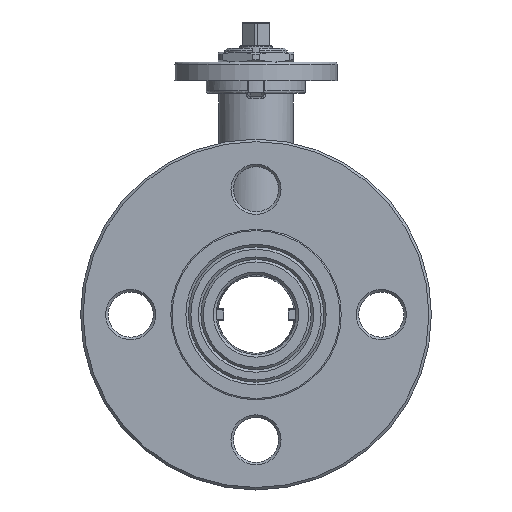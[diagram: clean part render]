
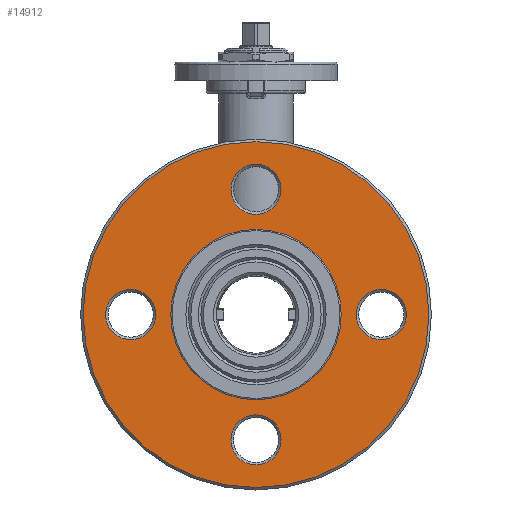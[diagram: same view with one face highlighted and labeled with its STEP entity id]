
A CAD part, left-side view. The second image highlights one B-rep face of the part: STEP entity #14912.
In plain terms, the highlighted planar face has unit normal (-1, 0, 0) as drawn and (0, 0, 1) by its records, which use the part's own axes.
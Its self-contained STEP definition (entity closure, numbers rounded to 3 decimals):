
#1435=PLANE('',#16361);
#4038=FACE_BOUND('',#5981,.T.);
#4039=FACE_BOUND('',#5982,.T.);
#4040=FACE_BOUND('',#5983,.T.);
#4041=FACE_BOUND('',#5984,.T.);
#4042=FACE_BOUND('',#5985,.T.);
#4904=FACE_OUTER_BOUND('',#5980,.T.);
#5980=EDGE_LOOP('',(#13955));
#5981=EDGE_LOOP('',(#13956));
#5982=EDGE_LOOP('',(#13957));
#5983=EDGE_LOOP('',(#13958));
#5984=EDGE_LOOP('',(#13959));
#5985=EDGE_LOOP('',(#13960));
#6615=CIRCLE('',#16360,10.);
#6616=CIRCLE('',#16362,69.);
#6617=CIRCLE('',#16363,10.);
#6618=CIRCLE('',#16364,10.);
#6619=CIRCLE('',#16365,27.);
#6620=CIRCLE('',#16366,10.);
#7960=VERTEX_POINT('',#29223);
#7961=VERTEX_POINT('',#29226);
#7962=VERTEX_POINT('',#29228);
#7963=VERTEX_POINT('',#29230);
#7964=VERTEX_POINT('',#29232);
#7965=VERTEX_POINT('',#29234);
#9963=EDGE_CURVE('',#7960,#7960,#6615,.T.);
#9964=EDGE_CURVE('',#7961,#7961,#6616,.T.);
#9965=EDGE_CURVE('',#7962,#7962,#6617,.T.);
#9966=EDGE_CURVE('',#7963,#7963,#6618,.T.);
#9967=EDGE_CURVE('',#7964,#7964,#6619,.T.);
#9968=EDGE_CURVE('',#7965,#7965,#6620,.T.);
#13955=ORIENTED_EDGE('',*,*,#9964,.F.);
#13956=ORIENTED_EDGE('',*,*,#9965,.F.);
#13957=ORIENTED_EDGE('',*,*,#9966,.F.);
#13958=ORIENTED_EDGE('',*,*,#9967,.F.);
#13959=ORIENTED_EDGE('',*,*,#9968,.F.);
#13960=ORIENTED_EDGE('',*,*,#9963,.F.);
#14912=ADVANCED_FACE('',(#4904,#4038,#4039,#4040,#4041,#4042),#1435,.F.);
#16360=AXIS2_PLACEMENT_3D('',#29224,#20158,#20159);
#16361=AXIS2_PLACEMENT_3D('',#29225,#20160,#20161);
#16362=AXIS2_PLACEMENT_3D('',#29227,#20162,#20163);
#16363=AXIS2_PLACEMENT_3D('',#29229,#20164,#20165);
#16364=AXIS2_PLACEMENT_3D('',#29231,#20166,#20167);
#16365=AXIS2_PLACEMENT_3D('',#29233,#20168,#20169);
#16366=AXIS2_PLACEMENT_3D('',#29235,#20170,#20171);
#20158=DIRECTION('center_axis',(0.,0.,1.));
#20159=DIRECTION('ref_axis',(1.,0.,0.));
#20160=DIRECTION('center_axis',(0.,0.,-1.));
#20161=DIRECTION('ref_axis',(-1.,0.,0.));
#20162=DIRECTION('center_axis',(0.,0.,-1.));
#20163=DIRECTION('ref_axis',(-1.,0.,0.));
#20164=DIRECTION('center_axis',(0.,0.,1.));
#20165=DIRECTION('ref_axis',(1.,0.,0.));
#20166=DIRECTION('center_axis',(0.,0.,1.));
#20167=DIRECTION('ref_axis',(1.,0.,0.));
#20168=DIRECTION('center_axis',(0.,0.,1.));
#20169=DIRECTION('ref_axis',(-1.,0.,0.));
#20170=DIRECTION('center_axis',(0.,0.,1.));
#20171=DIRECTION('ref_axis',(1.,0.,0.));
#29223=CARTESIAN_POINT('',(-10.,-50.,15.5));
#29224=CARTESIAN_POINT('Origin',(0.,-50.,15.5));
#29225=CARTESIAN_POINT('Origin',(0.,0.,15.5));
#29226=CARTESIAN_POINT('',(69.,0.,15.5));
#29227=CARTESIAN_POINT('Origin',(0.,0.,15.5));
#29228=CARTESIAN_POINT('',(40.,0.,15.5));
#29229=CARTESIAN_POINT('Origin',(50.,0.,15.5));
#29230=CARTESIAN_POINT('',(-60.,0.,15.5));
#29231=CARTESIAN_POINT('Origin',(-50.,0.,15.5));
#29232=CARTESIAN_POINT('',(27.,0.,15.5));
#29233=CARTESIAN_POINT('Origin',(0.,0.,15.5));
#29234=CARTESIAN_POINT('',(-10.,50.,15.5));
#29235=CARTESIAN_POINT('Origin',(0.,50.,15.5));
